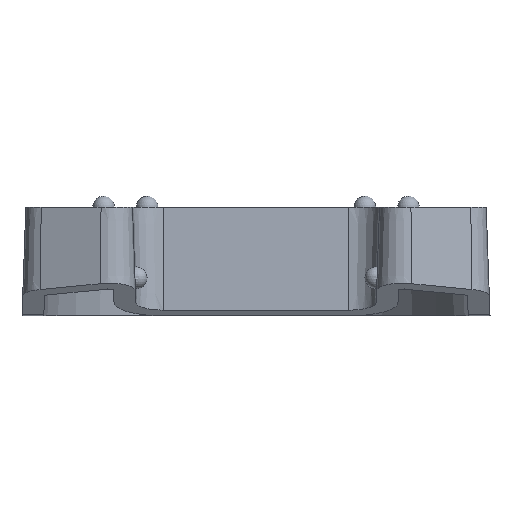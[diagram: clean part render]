
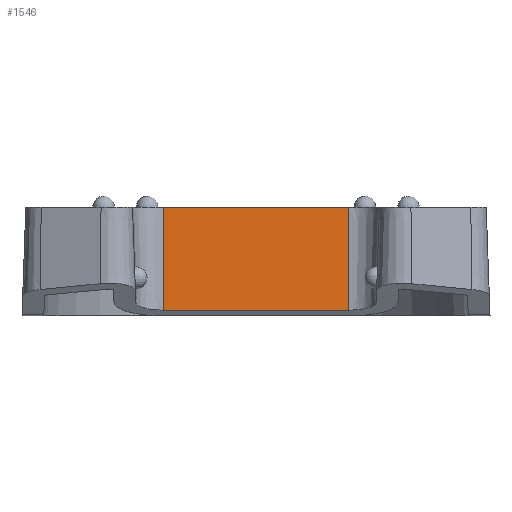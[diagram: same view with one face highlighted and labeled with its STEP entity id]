
A CAD part, front view. The second image highlights one B-rep face of the part: STEP entity #1546.
In plain terms, the highlighted planar face has unit normal (0, -0.999, 0.035).
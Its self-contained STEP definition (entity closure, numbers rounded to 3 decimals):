
#117=PLANE('',#1724);
#183=FACE_OUTER_BOUND('',#273,.T.);
#273=EDGE_LOOP('',(#1297,#1298,#1299,#1300));
#384=LINE('',#2925,#505);
#401=LINE('',#2980,#522);
#402=LINE('',#2984,#523);
#403=LINE('',#2985,#524);
#505=VECTOR('',#2050,10.);
#522=VECTOR('',#2109,10.);
#523=VECTOR('',#2114,10.);
#524=VECTOR('',#2115,10.);
#745=VERTEX_POINT('',#2922);
#746=VERTEX_POINT('',#2924);
#763=VERTEX_POINT('',#2979);
#764=VERTEX_POINT('',#2983);
#934=EDGE_CURVE('',#746,#745,#384,.T.);
#963=EDGE_CURVE('',#746,#763,#401,.T.);
#965=EDGE_CURVE('',#745,#764,#402,.T.);
#966=EDGE_CURVE('',#764,#763,#403,.T.);
#1297=ORIENTED_EDGE('',*,*,#934,.T.);
#1298=ORIENTED_EDGE('',*,*,#965,.T.);
#1299=ORIENTED_EDGE('',*,*,#966,.T.);
#1300=ORIENTED_EDGE('',*,*,#963,.F.);
#1546=ADVANCED_FACE('',(#183),#117,.T.);
#1724=AXIS2_PLACEMENT_3D('',#2982,#2112,#2113);
#2050=DIRECTION('',(1.,0.,0.));
#2109=DIRECTION('',(0.,0.035,0.999));
#2112=DIRECTION('center_axis',(0.,-0.999,
0.035));
#2113=DIRECTION('ref_axis',(1.,0.,0.));
#2114=DIRECTION('',(0.,0.035,0.999));
#2115=DIRECTION('',(-1.,0.,0.));
#2922=CARTESIAN_POINT('',(8.501,-21.981,0.531));
#2924=CARTESIAN_POINT('',(-8.501,-21.981,0.531));
#2925=CARTESIAN_POINT('',(4.251,-21.981,0.531));
#2979=CARTESIAN_POINT('',(-8.501,-21.651,10.));
#2980=CARTESIAN_POINT('',(-8.501,-22.,0.));
#2982=CARTESIAN_POINT('Origin',(8.501,-22.,0.));
#2983=CARTESIAN_POINT('',(8.501,-21.651,10.));
#2984=CARTESIAN_POINT('',(8.501,-22.,0.));
#2985=CARTESIAN_POINT('',(-8.501,-21.651,10.));
